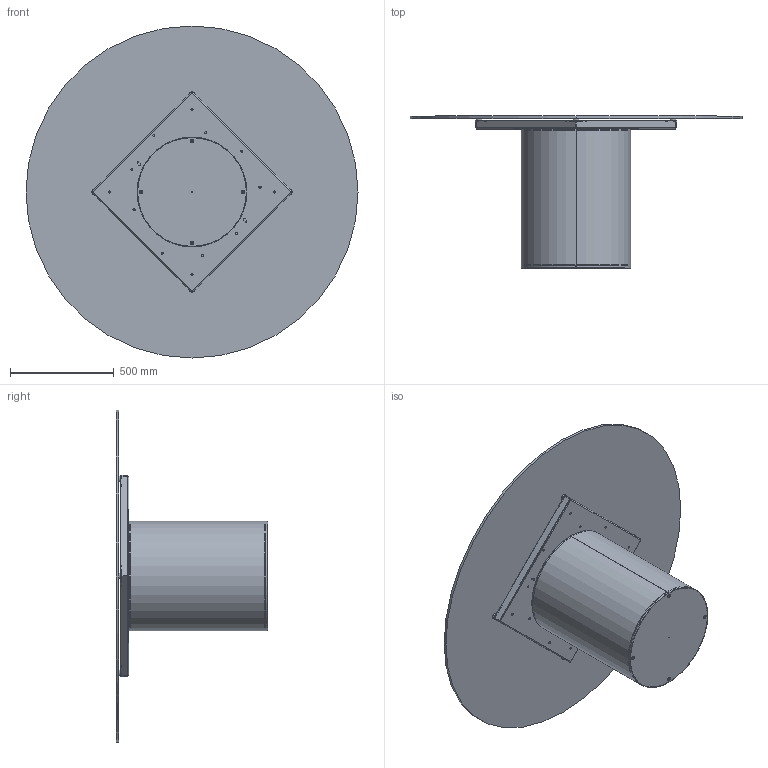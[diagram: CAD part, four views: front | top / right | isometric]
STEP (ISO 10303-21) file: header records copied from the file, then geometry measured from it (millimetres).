
FILE_DESCRIPTION (( 'STEP AP203' ), '1' );
FILE_NAME ('CI08G.STEP', '2024-08-08T07:02:29', ( '' ), ( '' ), 'SwSTEP 2.0', 'SolidWorks 2022', '' );
FILE_SCHEMA (( 'CONFIG_CONTROL_DESIGN' ));
Length unit declared in the file: millimetre
Products named in the file (11): C1XCRMXX-00-piani Rotondi Cristallo_C08 D.160cm; 434070-00-PIEDINO TPV GOMMA NERO D. 30x8max18_filo estetico; C2B000000_01-00-struttura cilindro D.530mm; CI08G; TTAV0801-02-TELAIO UNIVERSALE TONDO; C2B000000_02-01-ZAVORRA IN FERRO D.530mm; TTAV0801 TELAIO UNIVERSALE TONDO-PIASTRINA; C2B000000-03-CILINDRO BASE D.530mm_Normale; COLLO TELAIO UNIVERSALE TTAV0801 CON FERRAMENTA_MTG TOP CRISTALLO VERNICIATO-CERAMICA; TTAV0801-02-TELAIO UNIVERSALE TONDO-VASSOIO; M8xXXmm_hex_M8X20mm
Assembly tree (19 placements, depth 4):
  CI08G
    C2B000000-03-CILINDRO BASE D.530mm_Normale
      C2B000000_01-00-struttura cilindro D.530mm
      C2B000000_02-01-ZAVORRA IN FERRO D.530mm
      M8xXXmm_hex_M8X20mm  x4
    COLLO TELAIO UNIVERSALE TTAV0801 CON FERRAMENTA_MTG TOP CRISTALLO VERNICIATO-CERAMICA
      TTAV0801-02-TELAIO UNIVERSALE TONDO
        TTAV0801-02-TELAIO UNIVERSALE TONDO-VASSOIO
        TTAV0801 TELAIO UNIVERSALE TONDO-PIASTRINA  x4
      434070-00-PIEDINO TPV GOMMA NERO D. 30x8max18_filo estetico  x4
    C1XCRMXX-00-piani Rotondi Cristallo_C08 D.160cm
Bounding box: 1600 x 732 x 1600 mm (x, y, z)
Volume: 31448761.6 mm3; surface area: 8225728.5 mm2
Topology: 23 solids, 23 shells, 704 faces, 1776 edges, 1110 vertices
Faces by surface type: plane 332, cylinder 302, cone 32, torus 24, sphere 14
Entity records: 15444 total; most frequent: DIRECTION 2573, CARTESIAN_POINT 2386, ORIENTED_EDGE 2338, EDGE_CURVE 1169, AXIS2_PLACEMENT_3D 930, VERTEX_POINT 743, LINE 713, VECTOR 713
